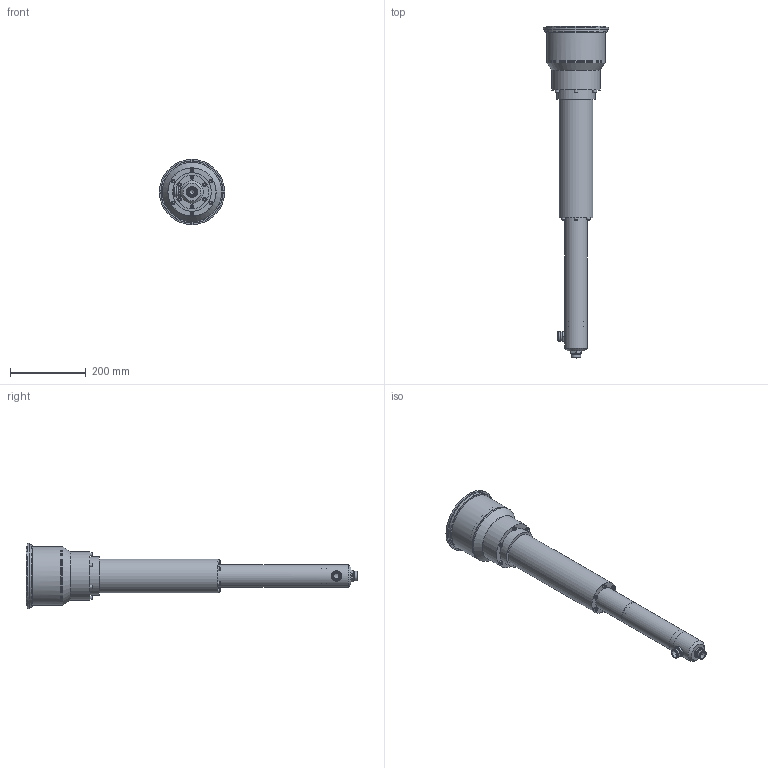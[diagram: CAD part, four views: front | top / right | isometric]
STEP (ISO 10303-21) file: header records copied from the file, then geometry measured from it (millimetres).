
FILE_DESCRIPTION(/* description */ ('Unknown'),/* implementation_level */ '2;1');
FILE_NAME(/* name */ '8792-001 Rev N STEP',/* time_stamp */ '2019-04-04T15:58:18-04:00',/* author */ ('Unknown'),/* organization */ ('Unknown'),/* preprocessor_version */ 'ST-DEVELOPER v16.7',/* originating_system */ 'DEX',/* authorisation */ $);
FILE_SCHEMA (('AUTOMOTIVE_DESIGN {1 0 10303 214 3 1 1}'));
Length unit declared in the file: millimetre
Products named in the file (1): 8792-001
Bounding box: 172.21 x 875.49 x 172.21 mm (x, y, z)
Volume: 2783865.8 mm3; surface area: 820491.5 mm2
Topology: 2 solids, 52 shells, 829 faces, 1811 edges, 1202 vertices
Faces by surface type: plane 390, cylinder 300, cone 93, torus 44, bspline 2
Full cylindrical faces by diameter (mm): 4.039 x1, 4.763 x8, 5.105 x24, 6.265 x12, 6.33 x12, 6.35 x12, 7.137 x12, 7.938 x2, 8.572 x1, 9.398 x12, 9.525 x2, 11.113 x1, 13.487 x2, 14.173 x1, 14.402 x1, 16.002 x1, 19.05 x2, 21.643 x1, 22.149 x2, 22.225 x2, 23.647 x4, 25.444 x2, 26.264 x2, 27.305 x1, 27.559 x1, 27.94 x2, 28.194 x2, 28.27 x1, 29.921 x1, 30.226 x1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
Entity records: 26822 total; most frequent: CARTESIAN_POINT 4478, DIRECTION 3562, ORIENTED_EDGE 2686, AXIS2_PLACEMENT_3D 1514, FACE_BOUND 1368, EDGE_LOOP 1359, EDGE_CURVE 1343, VERTEX_POINT 1063
